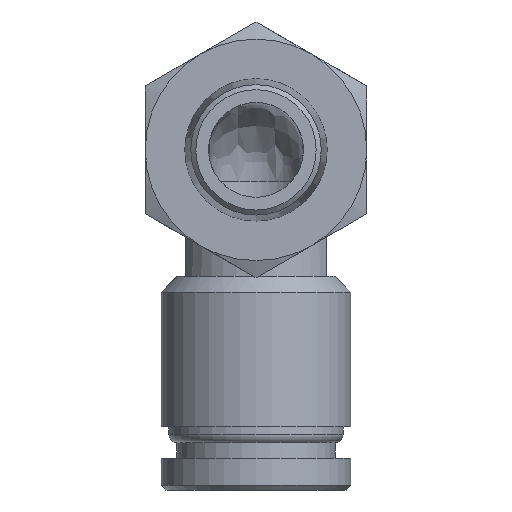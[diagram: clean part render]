
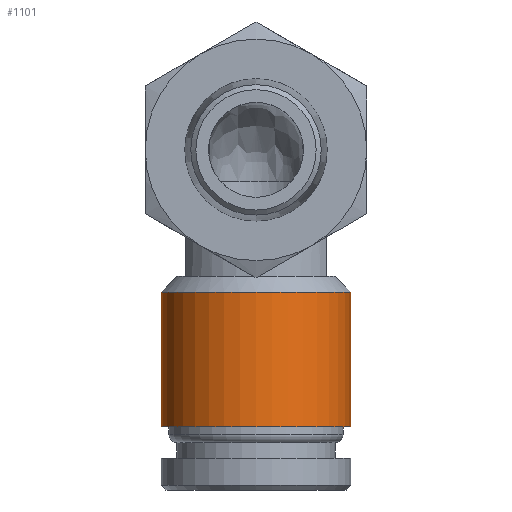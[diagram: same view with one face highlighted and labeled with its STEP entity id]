
A CAD part, front view. The second image highlights one B-rep face of the part: STEP entity #1101.
In plain terms, the highlighted cylindrical face has radius 6 mm (diameter 12 mm), a full revolution.
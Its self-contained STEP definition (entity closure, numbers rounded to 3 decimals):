
#79=CYLINDRICAL_SURFACE('',#1245,6.);
#142=FACE_OUTER_BOUND('',#217,.T.);
#217=EDGE_LOOP('',(#960,#961,#962,#963));
#278=CIRCLE('',#1238,6.);
#281=CIRCLE('',#1244,6.);
#351=LINE('',#1932,#423);
#423=VECTOR('',#1549,6.);
#522=VERTEX_POINT('',#1919);
#524=VERTEX_POINT('',#1929);
#669=EDGE_CURVE('',#522,#522,#278,.T.);
#673=EDGE_CURVE('',#524,#524,#281,.T.);
#674=EDGE_CURVE('',#522,#524,#351,.T.);
#960=ORIENTED_EDGE('',*,*,#669,.F.);
#961=ORIENTED_EDGE('',*,*,#674,.T.);
#962=ORIENTED_EDGE('',*,*,#673,.T.);
#963=ORIENTED_EDGE('',*,*,#674,.F.);
#1101=ADVANCED_FACE('',(#142),#79,.T.);
#1238=AXIS2_PLACEMENT_3D('',#1921,#1532,#1533);
#1244=AXIS2_PLACEMENT_3D('',#1930,#1545,#1546);
#1245=AXIS2_PLACEMENT_3D('',#1931,#1547,#1548);
#1532=DIRECTION('center_axis',(0.,0.,1.));
#1533=DIRECTION('ref_axis',(1.,0.,0.));
#1545=DIRECTION('center_axis',(0.,0.,1.));
#1546=DIRECTION('ref_axis',(1.,0.,0.));
#1547=DIRECTION('center_axis',(0.,0.,1.));
#1548=DIRECTION('ref_axis',(0.,-1.,0.));
#1549=DIRECTION('',(0.,0.,-1.));
#1919=CARTESIAN_POINT('',(0.,18.1,-9.));
#1921=CARTESIAN_POINT('Origin',(0.,12.1,-9.));
#1929=CARTESIAN_POINT('',(0.,18.1,-17.5));
#1930=CARTESIAN_POINT('Origin',(0.,12.1,-17.5));
#1931=CARTESIAN_POINT('Origin',(0.,12.1,-13.25));
#1932=CARTESIAN_POINT('',(0.,18.1,-13.25));
